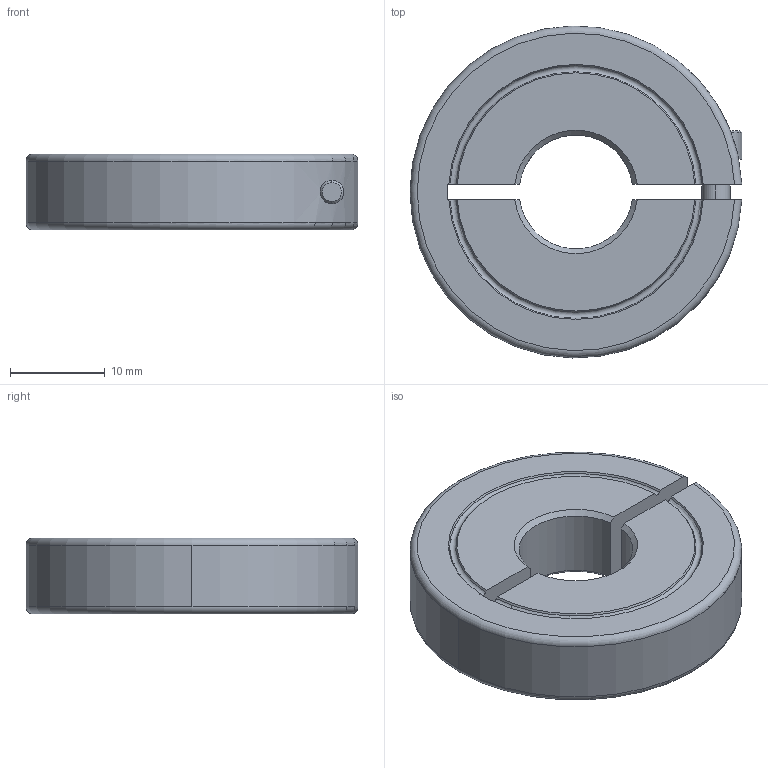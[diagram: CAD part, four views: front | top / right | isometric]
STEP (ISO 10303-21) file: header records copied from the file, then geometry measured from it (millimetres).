
FILE_DESCRIPTION (( 'STEP AP214' ), '1' );
FILE_NAME ('Ruland_ENCL35-12MM-A.step', '2018-10-02T19:14:50', ( '' ), ( '' ), 'SwSTEP 2.0', 'SolidWorks 2018', '' );
FILE_SCHEMA (( 'AUTOMOTIVE_DESIGN' ));
Length unit declared in the file: inch
Products named in the file (3): Ruland_ENCL35-12MM-A; ENCLxx-xx-x_ENCL35-12MM-A; CAP SCREWS_CFM3_10
Assembly tree (2 placements, depth 2):
  Ruland_ENCL35-12MM-A
    ENCLxx-xx-x_ENCL35-12MM-A
    CAP SCREWS_CFM3_10
Bounding box: 35 x 34.99 x 8 mm (x, y, z)
Volume: 6411.2 mm3; surface area: 3361.8 mm2
Topology: 2 solids, 2 shells, 53 faces, 132 edges, 86 vertices
Faces by surface type: plane 20, cylinder 15, cone 12, torus 6
Entity records: 1834 total; most frequent: CARTESIAN_POINT 435, DIRECTION 274, ORIENTED_EDGE 264, EDGE_CURVE 132, AXIS2_PLACEMENT_3D 105, VERTEX_POINT 86, LINE 64, VECTOR 64
